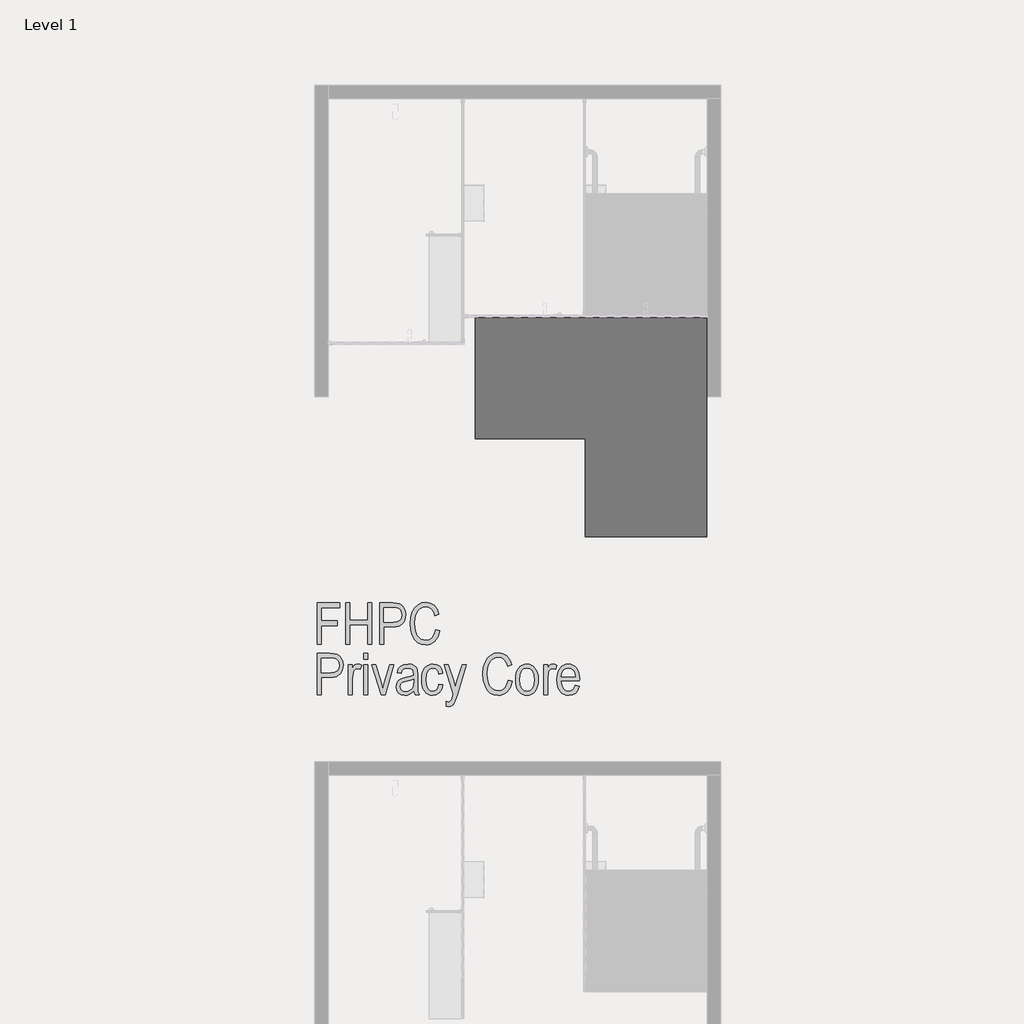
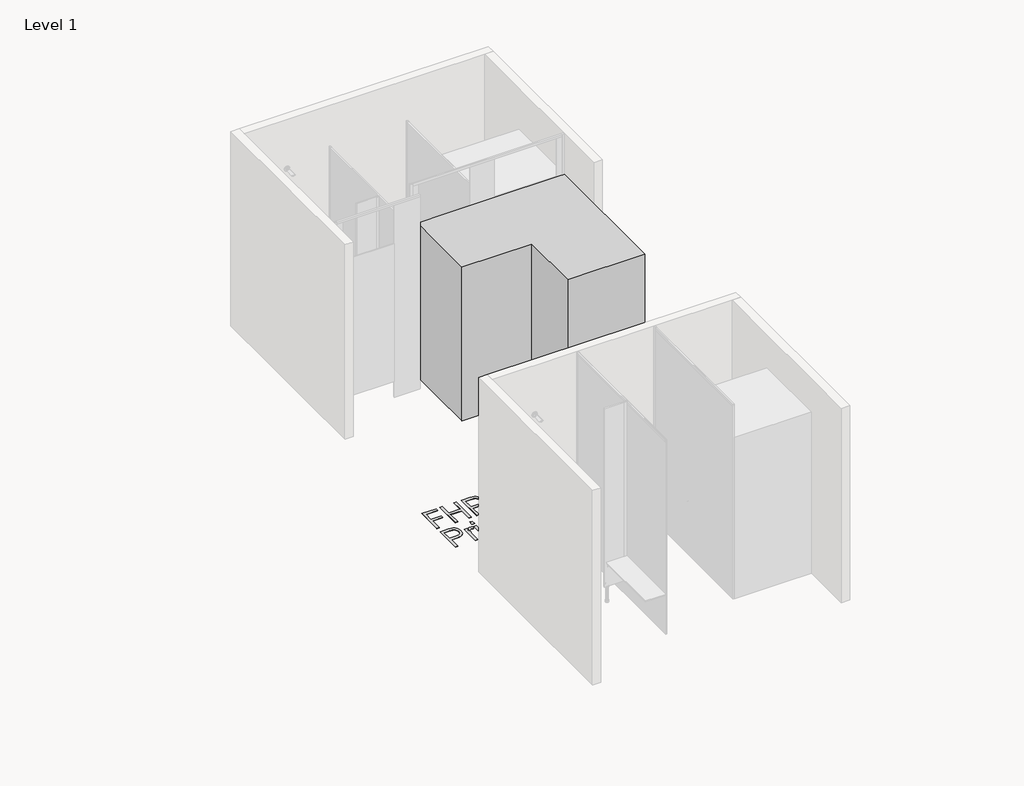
# One storey, part 8 of 21: 2 proxies.
"""IFC4 building model written with IfcOpenShell, lengths in millimetres."""

import ifcopenshell
import ifcopenshell.guid

model = None  # the IFC model being written
_history = None  # IfcOwnerHistory: only IFC2X3 demands one
_inside = {}  # id of a spatial element -> (the spatial element, [elements in it])
_under = {}  # id of a project, library or spatial element -> (it, [spatial elements below it])
_declared = {}  # id of a project -> (the project, [libraries it declares])
_typed = {}  # id of a type object -> (the type object, [elements of that type])
_made_of = {}  # id of a material, layer set ... -> (it, [elements and type objects made of it])


def new_model(schema):
    """Start an empty IFC model of exactly this schema.

    Asked for "IFC4X3", IfcOpenShell would pick the latest addendum, in which some entities
    have other attributes; the version numbers below select the first issue.
    IFC2X3 requires an IfcOwnerHistory on every rooted entity: one is made here for all.
    """
    global model, _history
    if schema == "IFC4X3":
        model = ifcopenshell.file(schema_version=(4, 3, 0, 0))
    else:
        model = ifcopenshell.file(schema=schema)
    _inside.clear()
    _under.clear()
    _declared.clear()
    _typed.clear()
    _made_of.clear()
    _history = None
    if model.schema == "IFC2X3":
        org = make("IfcOrganization", Name="unknown")
        user = make(
            "IfcPersonAndOrganization",
            ThePerson=make("IfcPerson", FamilyName="unknown"),
            TheOrganization=org,
        )
        app = make(
            "IfcApplication",
            ApplicationDeveloper=org,
            Version="unknown",
            ApplicationFullName="unknown",
            ApplicationIdentifier="unknown",
        )
        _history = make(
            "IfcOwnerHistory",
            OwningUser=user,
            OwningApplication=app,
            ChangeAction="ADDED",
            CreationDate=0,
        )
    return model


def make(cls, **values):
    """One entity of the class cls with the attributes given. An attribute that is None is left unset."""
    return model.create_entity(
        cls, **{name: value for name, value in values.items() if value is not None}
    )


def rooted(cls, **values):
    """An entity with a GlobalId (a new one), such as an element, a storey or a relation."""
    return make(cls, GlobalId=ifcopenshell.guid.new(), OwnerHistory=_history, **values)


def si_unit(unit_type, name, prefix=None):
    """IfcSIUnit, for example si_unit("LENGTHUNIT", "METRE", prefix="MILLI")."""
    return make("IfcSIUnit", UnitType=unit_type, Prefix=prefix, Name=name)


def assignment(units):
    """IfcUnitAssignment: the units of a project."""
    return None if units is None else make("IfcUnitAssignment", Units=units)


def point(xyz):
    """IfcCartesianPoint."""
    return None if xyz is None else make("IfcCartesianPoint", Coordinates=xyz)


def direction(xyz):
    """IfcDirection."""
    return None if xyz is None else make("IfcDirection", DirectionRatios=xyz)


def frame(location, z_axis=None, x_axis=None):
    """IfcAxis2Placement3D, a coordinate frame: its origin and axes. An axis left out is left unset."""
    return make(
        "IfcAxis2Placement3D",
        Location=point(location),
        Axis=direction(z_axis),
        RefDirection=direction(x_axis),
    )


def origin():
    """The frame at (0, 0, 0) with its axes left unset."""
    return frame((0.0, 0.0, 0.0))


def origin_with_axes():
    """The frame at (0, 0, 0) with the z axis (0, 0, 1) and the x axis (1, 0, 0) written out."""
    return frame((0.0, 0.0, 0.0), z_axis=(0.0, 0.0, 1.0), x_axis=(1.0, 0.0, 0.0))


def place(relative_to, where):
    """IfcLocalPlacement: puts the frame where relative to a parent placement (None: the world)."""
    return make(
        "IfcLocalPlacement", PlacementRelTo=relative_to, RelativePlacement=where
    )


def context(
    kind, dimensions, precision=None, world=None, true_north=None, identifier=None
):
    """IfcGeometricRepresentationContext, for example the 3D "Model" context."""
    return make(
        "IfcGeometricRepresentationContext",
        ContextIdentifier=identifier,
        ContextType=kind,
        CoordinateSpaceDimension=dimensions,
        Precision=precision,
        WorldCoordinateSystem=world,
        TrueNorth=true_north,
    )


def project(units=None, contexts=None):
    """IfcProject with its units and contexts."""
    return rooted(
        "IfcProject",
        Name="project",
        RepresentationContexts=contexts,
        UnitsInContext=assignment(units),
    )


def spatial(cls, under=None, at=None, **own):
    """A site, building, storey or space (cls), placed at a placement, below another one or the project."""
    s = rooted(cls, ObjectPlacement=at, **own)
    if under is not None:
        _under.setdefault(under.id(), (under, []))[1].append(s)
    return s


def polyline(points):
    """IfcPolyline through the points."""
    return make("IfcPolyline", Points=[point(p) for p in points])


def outline(outer, holes=None, kind="AREA"):
    """IfcArbitraryClosedProfileDef: a profile drawn as a closed curve; with holes, ...WithVoids."""
    if holes is None:
        return make("IfcArbitraryClosedProfileDef", ProfileType=kind, OuterCurve=outer)
    return make(
        "IfcArbitraryProfileDefWithVoids",
        ProfileType=kind,
        OuterCurve=outer,
        InnerCurves=holes,
    )


def extrude(swept, where, along, depth):
    """IfcExtrudedAreaSolid: the profile swept, set in the frame where, extruded along a direction by depth."""
    return make(
        "IfcExtrudedAreaSolid",
        SweptArea=swept,
        Position=where,
        ExtrudedDirection=direction(along),
        Depth=depth,
    )


def shape(context_of_items, identifier, shape_type, items):
    """IfcShapeRepresentation: the items that make up one representation, for example the "Body"."""
    return make(
        "IfcShapeRepresentation",
        ContextOfItems=context_of_items,
        RepresentationIdentifier=identifier,
        RepresentationType=shape_type,
        Items=items,
    )


def source(mapping_origin, context_of_items, identifier, shape_type, items):
    """IfcRepresentationMap: a shape defined once, which mapped items show again and again."""
    return make(
        "IfcRepresentationMap",
        MappingOrigin=mapping_origin,
        MappedRepresentation=shape(context_of_items, identifier, shape_type, items),
    )


def transform(
    local_origin,
    x_axis=None,
    y_axis=None,
    z_axis=None,
    scale=None,
    scale2=None,
    scale3=None,
    uniform=True,
):
    """IfcCartesianTransformationOperator3D, or its non-uniform kind. x_axis, y_axis, z_axis: its Axis1, 2, 3."""
    if uniform:
        return make(
            "IfcCartesianTransformationOperator3D",
            Axis1=direction(x_axis),
            Axis2=direction(y_axis),
            LocalOrigin=point(local_origin),
            Scale=scale,
            Axis3=direction(z_axis),
        )
    return make(
        "IfcCartesianTransformationOperator3DnonUniform",
        Axis1=direction(x_axis),
        Axis2=direction(y_axis),
        LocalOrigin=point(local_origin),
        Scale=scale,
        Axis3=direction(z_axis),
        Scale2=scale2,
        Scale3=scale3,
    )


def mapped(mapping_source, mapping_target):
    """IfcMappedItem: shows the shape of a source again, moved by a transform."""
    return make(
        "IfcMappedItem", MappingSource=mapping_source, MappingTarget=mapping_target
    )


def made_of(thing, what):
    """Note that an element or type object is made of a material, layer set ...; save() writes the relation."""
    if what is not None:
        _made_of.setdefault(what.id(), (what, []))[1].append(thing)
    return thing


def element(
    cls,
    number,
    at=None,
    inside=None,
    cuts=None,
    type_object=None,
    material=None,
    context=None,
    identifier="Body",
    shape_type=None,
    held_by="IfcProductDefinitionShape",
    body=None,
    shapes=None,
    **own,
):
    """One element of the class cls, such as IfcWall. Its Tag is "e" and its number.

    at: its placement. inside: the storey or other place that contains it. cuts: it is an
    opening in that element (IfcRelVoidsElement). A single representation is given by context,
    identifier, shape_type and body (its items); several are given by shapes. held_by: the class
    of the entity that holds the representations. save() writes the other relations.
    """
    e = rooted(cls, Tag="e%d" % number, ObjectPlacement=at, **own)
    if body is not None:
        shapes = [shape(context, identifier, shape_type, body)]
    if shapes is not None:
        e.Representation = make(held_by, Representations=shapes)
    if inside is not None:
        _inside.setdefault(inside.id(), (inside, []))[1].append(e)
    if cuts is not None:
        rooted(
            "IfcRelVoidsElement", RelatingBuildingElement=cuts, RelatedOpeningElement=e
        )
    if type_object is not None:
        _typed.setdefault(type_object.id(), (type_object, []))[1].append(e)
    return made_of(e, material)


def aggregate(whole, parts):
    """IfcRelAggregates: a whole, such as a stair, and the parts it consists of."""
    return rooted("IfcRelAggregates", RelatingObject=whole, RelatedObjects=parts)


def save(model, path):
    """Write the relations noted so far, then the file.

    IfcRelAggregates (storeys below a building ...), IfcRelContainedInSpatialStructure (elements
    in a storey), IfcRelDefinesByType, IfcRelAssociatesMaterial and IfcRelDeclares: one each for
    every whole, place, type object, material and project.
    """
    for whole, parts in _under.values():
        aggregate(whole, parts)
    for where, things in _inside.values():
        rooted(
            "IfcRelContainedInSpatialStructure",
            RelatedElements=things,
            RelatingStructure=where,
        )
    for kind, things in _typed.values():
        rooted("IfcRelDefinesByType", RelatedObjects=things, RelatingType=kind)
    for what, things in _made_of.values():
        rooted("IfcRelAssociatesMaterial", RelatedObjects=things, RelatingMaterial=what)
    for by, libraries in _declared.values():
        rooted("IfcRelDeclares", RelatingContext=by, RelatedDefinitions=libraries)
    model.write(path)


def standard_f88c7766(model_context):
    return source(origin(), model_context, "Body", "SweptSolid", [
        extrude(outline(polyline([(450.0, 812.5), (450.0, -812.5), (-450.0, -812.5), (-450.0, -87.5), (-1262.5, -87.5), (-1262.5, 812.5), (450.0, 812.5)])), origin_with_axes(), (0.0, 0.0, 1.0), 1900.0),
    ])


model = new_model("IFC4")

# Units and contexts
model_context = context("Model", 3, world=origin())
ifc_project = project(units=[si_unit("LENGTHUNIT", "METRE", prefix="MILLI")], contexts=[model_context])

# Site, building, storey
site = spatial("IfcSite", under=ifc_project)
building = spatial("IfcBuilding", under=site)
storey = spatial("IfcBuildingStorey", under=building, Name="Level 1", Elevation=0.0)

# Proxies
placement = place(None, origin())
element("IfcBuildingElementProxy", 1, Name="Arial Narrow-300mm", ObjectType="Arial Narrow-300mm", at=placement, inside=storey, context=model_context, shape_type="SweptSolid", body=[
    extrude(outline(polyline([(-11218.8829157, 6023.6753804), (-11218.8829157, 6328.8527498), (-11051.5275841, 6328.8527498), (-11051.5275841, 6294.3972403), (-11189.3496219, 6294.3972403), (-11189.3496219, 6195.9529276), (-11071.2164466, 6195.9529276), (-11071.2164466, 6161.4974182), (-11189.3496219, 6161.4974182), (-11189.3496219, 6023.6753804), (-11218.8829157, 6023.6753804)])), origin_with_axes(), (0.0, 0.0, 1.0), 5.0),
    extrude(outline(polyline([(-11007.2276434, 6023.6753804), (-11007.2276434, 6328.8527498), (-10977.6943496, 6328.8527498), (-10977.6943496, 6200.8751433), (-10844.7945274, 6200.8751433), (-10844.7945274, 6328.8527498), (-10815.2612336, 6328.8527498), (-10815.2612336, 6023.6753804), (-10844.7945274, 6023.6753804), (-10844.7945274, 6166.4196338), (-10977.6943496, 6166.4196338), (-10977.6943496, 6023.6753804), (-11007.2276434, 6023.6753804)])), origin_with_axes(), (0.0, 0.0, 1.0), 5.0),
    extrude(outline(polyline([(-10756.194646, 6023.6753804), (-10756.194646, 6328.8527498), (-10661.3650854, 6328.8527498), (-10632.2547945, 6327.4299218), (-10611.9891098, 6323.161438), (-10592.4156117, 6312.0960665), (-10577.2259619, 6294.4356951), (-10567.4776676, 6271.0647846), (-10564.2282362, 6242.8677954), (-10569.6407507, 6206.278044), (-10576.4063938, 6190.7663352), (-10585.8782941, 6177.1100709), (-10598.6717285, 6165.9725967), (-10615.4019742, 6158.0172579), (-10636.0690309, 6153.2440547), (-10660.6728988, 6151.6529869), (-10726.6613522, 6151.6529869), (-10726.6613522, 6023.6753804), (-10756.194646, 6023.6753804)]), holes=[polyline([(-10726.6613522, 6186.1084964), (-10657.0581467, 6186.1084964), (-10628.620815, 6189.5405881), (-10608.9896347, 6199.8368634), (-10597.5685562, 6217.0550044), (-10593.76153, 6241.2526934), (-10595.636202, 6257.9516945), (-10601.2602179, 6272.0549959), (-10609.5376157, 6282.8511837), (-10619.3724333, 6289.6288439), (-10634.273672, 6293.2051412), (-10657.7503333, 6294.3972403), (-10726.6613522, 6294.3972403), (-10726.6613522, 6186.1084964)])]), origin_with_axes(), (0.0, 0.0, 1.0), 5.0),
    extrude(outline(polyline([(-10342.7285327, 6131.9641244), (-10313.1952388, 6122.1196931), (-10328.019568, 6076.6564944), (-10338.4744693, 6058.8783552), (-10350.9578619, 6044.4025228), (-10365.1909483, 6033.1809287), (-10380.8949312, 6025.1655043), (-10398.0698106, 6020.3562496), (-10416.7155864, 6018.7531648), (-10448.2485303, 6022.9831938), (-10474.8592586, 6035.673281), (-10496.8169549, 6057.7175006), (-10514.3908029, 6090.0099271), (-10525.9272458, 6130.8008664), (-10529.7727268, 6178.3406248), (-10525.9368595, 6224.7651938), (-10514.4292577, 6263.4411186), (-10496.3747246, 6293.9838511), (-10472.8980633, 6316.0088434), (-10445.1817593, 6329.3334349), (-10414.4082978, 6333.7749654), (-10381.5294356, 6328.1509495), (-10353.6496986, 6311.2789018), (-10332.0765504, 6283.5049155), (-10318.1174545, 6245.175084), (-10347.6507483, 6235.3306527), (-10358.2354346, 6263.3257541), (-10373.0693775, 6283.3222552), (-10392.1525768, 6295.3201558), (-10415.4850325, 6299.319456), (-10439.1635816, 6296.1277068), (-10459.4388799, 6286.5524592), (-10476.1474947, 6270.2187788), (-10489.125993, 6246.7517312), (-10497.461073, 6216.132089), (-10500.239433, 6178.3406248), (-10498.8262187, 6149.0284462), (-10494.586576, 6123.6194307), (-10487.5205047, 6102.1135784), (-10477.6280049, 6084.5108893), (-10465.3945686, 6070.8161702), (-10451.3056877, 6061.034228), (-10435.3613622, 6055.1650627), (-10417.5615922, 6053.2086742), (-10391.7103464, 6058.092435), (-10369.6853542, 6072.7437175), (-10352.8902161, 6097.3163409), (-10342.7285327, 6131.9641244)])), origin_with_axes(), (0.0, 0.0, 1.0), 5.0),
    extrude(outline(polyline([(-11218.8829157, 5650.573168), (-11218.8829157, 5955.7505374), (-11124.0533551, 5955.7505374), (-11094.9430642, 5954.3277094), (-11074.6773795, 5950.0592255), (-11055.1038814, 5938.9938541), (-11039.9142316, 5921.3334827), (-11030.1659373, 5897.9625722), (-11026.9165059, 5869.765583), (-11032.3290204, 5833.1758316), (-11039.0946635, 5817.6641228), (-11048.5665638, 5804.0078585), (-11061.3599982, 5792.8703843), (-11078.0902439, 5784.9150455), (-11098.7573006, 5780.1418423), (-11123.3611685, 5778.5507745), (-11189.3496219, 5778.5507745), (-11189.3496219, 5650.573168), (-11218.8829157, 5650.573168)]), holes=[polyline([(-11189.3496219, 5813.006284), (-11119.7464164, 5813.006284), (-11091.3090847, 5816.4383757), (-11071.6779044, 5826.734651), (-11060.2568259, 5843.952792), (-11056.4497997, 5868.150481), (-11058.3244717, 5884.8494821), (-11063.9484876, 5898.9527835), (-11072.2258854, 5909.7489713), (-11082.060703, 5916.5266315), (-11096.9619417, 5920.1029288), (-11120.438603, 5921.2950279), (-11189.3496219, 5921.2950279), (-11189.3496219, 5813.006284)])]), origin_with_axes(), (0.0, 0.0, 1.0), 5.0),
    extrude(outline(polyline([(-10987.5387808, 5650.573168), (-10987.5387808, 5872.0728716), (-10958.005487, 5872.0728716), (-10958.005487, 5842.693397), (-10948.122601, 5859.9596065), (-10939.0857207, 5870.2270407), (-10929.933476, 5875.3030756), (-10919.7044966, 5876.9950872), (-10904.5533016, 5874.5339794), (-10889.0944681, 5867.1506559), (-10898.9388994, 5837.6173621), (-10921.857966, 5842.5395778), (-10931.5005095, 5840.7802702), (-10940.2778198, 5835.5023476), (-10947.3823459, 5827.0711306), (-10952.0065367, 5815.8519399), (-10958.005487, 5769.167801), (-10958.005487, 5650.573168), (-10987.5387808, 5650.573168)])), origin_with_axes(), (0.0, 0.0, 1.0), 5.0),
    extrude(outline(polyline([(-10874.3278212, 5911.4505967), (-10874.3278212, 5955.7505374), (-10844.7945274, 5955.7505374), (-10844.7945274, 5911.4505967), (-10874.3278212, 5911.4505967)])), origin_with_axes(), (0.0, 0.0, 1.0), 5.0),
    extrude(outline(polyline([(-10874.3278212, 5650.573168), (-10874.3278212, 5872.0728716), (-10844.7945274, 5872.0728716), (-10844.7945274, 5650.573168), (-10874.3278212, 5650.573168)])), origin_with_axes(), (0.0, 0.0, 1.0), 5.0),
    extrude(outline(polyline([(-10746.504034, 5650.573168), (-10816.1841491, 5872.0728716), (-10785.7279398, 5872.0728716), (-10745.9656666, 5739.4806879), (-10734.0446756, 5694.8731087), (-10722.8158712, 5737.0195801), (-10682.3614115, 5872.0728716), (-10651.9052022, 5872.0728716), (-10716.4323728, 5650.573168), (-10746.504034, 5650.573168)])), origin_with_axes(), (0.0, 0.0, 1.0), 5.0),
    extrude(outline(polyline([(-10505.1616486, 5678.1068117), (-10520.783915, 5663.9554418), (-10537.0406858, 5653.803372), (-10553.9319609, 5647.6890573), (-10571.4577404, 5645.6509524), (-10596.7610052, 5649.9386636), (-10616.3729581, 5662.8017975), (-10628.9476809, 5682.9136629), (-10633.1392551, 5708.9475691), (-10631.1299913, 5727.0790118), (-10625.1021999, 5743.0185304), (-10615.5942482, 5756.2373712), (-10603.1445036, 5766.2067806), (-10585.6283378, 5773.4651259), (-10560.9211226, 5778.5507745), (-10527.9845781, 5785.3572758), (-10505.1616486, 5793.3174214), (-10505.1616486, 5802.7773046), (-10507.2574357, 5821.889345), (-10513.5447971, 5834.3102485), (-10528.4652633, 5844.1739072), (-10549.6923182, 5847.4617934), (-10568.919723, 5845.3948474), (-10582.6096352, 5839.1940093), (-10592.0887458, 5827.282632), (-10598.6837457, 5808.0840683), (-10628.2170395, 5813.006284), (-10618.4302904, 5841.9146871), (-10601.9908593, 5861.7285278), (-10577.9758307, 5873.1784474), (-10545.4622891, 5876.9950872), (-10519.8706133, 5874.3128642), (-10500.4701618, 5866.2661953), (-10487.1744114, 5854.258681), (-10479.8968387, 5839.6939219), (-10475.6283548, 5793.394331), (-10475.6283548, 5743.3261689), (-10473.6287047, 5677.1454415), (-10465.7839235, 5650.573168), (-10495.3172173, 5650.573168), (-10501.5468965, 5663.2248004), (-10505.1616486, 5678.1068117)]), holes=[polyline([(-10505.1616486, 5763.7841276), (-10527.2539368, 5755.7470724), (-10557.9985571, 5749.0174807), (-10586.493571, 5741.288064), (-10599.1067486, 5728.9825249), (-10603.6059613, 5710.6395807), (-10601.0294891, 5696.1132763), (-10593.3000723, 5684.8364034), (-10581.0137606, 5677.5972855), (-10564.7666036, 5675.1842462), (-10548.2502628, 5677.3665566), (-10533.3105693, 5683.913488), (-10520.947348, 5694.1040125), (-10512.160424, 5707.2171026), (-10506.9113425, 5725.1274302), (-10505.1616486, 5749.7096673), (-10505.1616486, 5763.7841276)])]), origin_with_axes(), (0.0, 0.0, 1.0), 5.0),
    extrude(outline(polyline([(-10318.1174545, 5729.3286182), (-10288.5841607, 5724.4064025), (-10297.6691095, 5690.5757837), (-10314.6180668, 5665.8397274), (-10337.5852019, 5650.6981461), (-10364.7246838, 5645.6509524), (-10381.7024822, 5647.4799593), (-10397.1036335, 5652.9669799), (-10410.9281376, 5662.1120143), (-10423.1759944, 5674.9150625), (-10433.2030861, 5691.3040217), (-10440.3652944, 5711.2067891), (-10444.6626193, 5734.6233648), (-10446.095061, 5761.5537487), (-10444.6193577, 5788.5946901), (-10440.1922477, 5812.0353), (-10432.8137311, 5831.8755784), (-10422.4838079, 5848.1155252), (-10409.8369823, 5860.7503336), (-10395.5077589, 5869.7751967), (-10379.4961375, 5875.1901146), (-10361.8021182, 5876.9950872), (-10335.5086421, 5872.6881485), (-10313.6951514, 5859.7673325), (-10297.6306546, 5838.2326391), (-10288.5841607, 5808.0840683), (-10318.1174545, 5803.1618527), (-10324.4240433, 5822.5911453), (-10334.1146553, 5836.425263), (-10346.6316958, 5844.7026608), (-10361.4175701, 5847.4617934), (-10383.2118335, 5842.3569174), (-10400.9106597, 5827.0422895), (-10412.6489903, 5800.6142216), (-10416.5617672, 5762.1690256), (-10412.918174, 5722.5990265), (-10401.9873943, 5695.7191145), (-10385.3653029, 5680.3179633), (-10364.6477742, 5675.1842462), (-10348.1025923, 5678.4817461), (-10334.1531101, 5688.3742459), (-10323.81838, 5705.2078388), (-10318.1174545, 5729.3286182)])), origin_with_axes(), (0.0, 0.0, 1.0), 5.0),
    extrude(outline(polyline([(-10263.9730825, 5566.8955022), (-10263.9730825, 5601.3510117), (-10248.5911586, 5596.428796), (-10234.3628791, 5600.7357347), (-10225.1337248, 5614.1949181), (-10212.751276, 5654.0341009), (-10278.7397294, 5872.0728716), (-10248.1297009, 5872.0728716), (-10210.4439875, 5752.5553232), (-10197.4462618, 5704.7944496), (-10185.1407227, 5751.786227), (-10146.9166419, 5872.0728716), (-10116.3066134, 5872.0728716), (-10184.2947169, 5646.8815063), (-10205.2525882, 5589.2377466), (-10213.4146215, 5576.7687746), (-10222.5957073, 5568.356785), (-10232.9400511, 5563.5691612), (-10244.5918584, 5561.9732866), (-10263.9730825, 5566.8955022)])), origin_with_axes(), (0.0, 0.0, 1.0), 5.0),
    extrude(outline(polyline([(-9806.2070284, 5758.861912), (-9776.6737346, 5749.0174807), (-9791.4980637, 5703.554282), (-9801.9529651, 5685.7761428), (-9814.4363577, 5671.3003104), (-9828.6694441, 5660.0787163), (-9844.373427, 5652.0632919), (-9861.5483064, 5647.2540372), (-9880.1940822, 5645.6509524), (-9911.7270261, 5649.8809814), (-9938.3377544, 5662.5710686), (-9960.2954507, 5684.6152882), (-9977.8692987, 5716.9077147), (-9989.4057416, 5757.698654), (-9993.2512226, 5805.2384124), (-9989.4153553, 5851.6629814), (-9977.9077535, 5890.3389062), (-9959.8532204, 5920.8816387), (-9936.3765591, 5942.906631), (-9908.660255, 5956.2312225), (-9877.8867936, 5960.672753), (-9845.0079314, 5955.0487371), (-9817.1281944, 5938.1766894), (-9795.5550462, 5910.4027031), (-9781.5959503, 5872.0728716), (-9811.1292441, 5862.2284403), (-9821.7139304, 5890.2235417), (-9836.5478733, 5910.2200428), (-9855.6310725, 5922.2179434), (-9878.9635283, 5926.2172436), (-9902.6420773, 5923.0254944), (-9922.9173757, 5913.4502468), (-9939.6259905, 5897.1165664), (-9952.6044888, 5873.6495188), (-9960.9395688, 5843.0298766), (-9963.7179288, 5805.2384124), (-9962.3047145, 5775.9262338), (-9958.0650717, 5750.5172183), (-9950.9990005, 5729.011366), (-9941.1065007, 5711.4086769), (-9928.8730644, 5697.7139578), (-9914.7841835, 5687.9320156), (-9898.839858, 5682.0628503), (-9881.040088, 5680.1064618), (-9855.1888422, 5684.9902226), (-9833.16385, 5699.6415051), (-9816.3687119, 5724.2141285), (-9806.2070284, 5758.861912)])), origin_with_axes(), (0.0, 0.0, 1.0), 5.0),
    extrude(outline(polyline([(-9752.0626565, 5761.3230198), (-9750.5821463, 5788.2149489), (-9746.1406158, 5811.5930697), (-9738.7380649, 5831.4573823), (-9728.3744937, 5847.8078867), (-9715.7420887, 5860.5772869), (-9701.5330366, 5869.6982871), (-9685.7473372, 5875.1708872), (-9668.3849907, 5876.9950872), (-9651.2726004, 5875.1708872), (-9635.6214928, 5869.6982871), (-9621.4316681, 5860.5772869), (-9608.7031261, 5847.8078867), (-9598.204963, 5831.6015879), (-9590.7062752, 5812.1698919), (-9586.2070624, 5789.5127987), (-9584.7073249, 5763.6303084), (-9586.1806248, 5735.7289405), (-9590.6005244, 5711.629792), (-9597.9670239, 5691.3328628), (-9608.2801232, 5674.8381529), (-9620.8764768, 5662.0687527), (-9635.0927392, 5652.9477525), (-9650.9289105, 5647.4751524), (-9668.3849907, 5645.6509524), (-9685.5911146, 5647.4799593), (-9701.292694, 5652.9669799), (-9715.4897291, 5662.1120143), (-9728.1822197, 5674.9150625), (-9738.6299108, 5691.2896011), (-9746.0925473, 5711.1491069), (-9750.5701292, 5734.4935798), (-9752.0626565, 5761.3230198)]), holes=[polyline([(-9722.5293626, 5761.3999294), (-9718.578131, 5723.3681227), (-9706.7244359, 5696.4882107), (-9689.0256097, 5680.5102373), (-9667.5389848, 5675.1842462), (-9647.1771631, 5680.5583058), (-9629.930181, 5696.6804848), (-9618.1630093, 5723.6084652), (-9614.2406187, 5761.3999294), (-9618.1918504, 5799.3163717), (-9630.0455454, 5826.1578289), (-9647.7443716, 5842.1358023), (-9669.2309965, 5847.4617934), (-9689.7370237, 5842.1069612), (-9706.9551647, 5826.0424644), (-9718.6358132, 5799.1721662), (-9722.5293626, 5761.3999294)])]), origin_with_axes(), (0.0, 0.0, 1.0), 5.0),
    extrude(outline(polyline([(-9545.3295998, 5650.573168), (-9545.3295998, 5872.0728716), (-9515.796306, 5872.0728716), (-9515.796306, 5842.693397), (-9505.9134199, 5859.9596065), (-9496.8765396, 5870.2270407), (-9487.7242949, 5875.3030756), (-9477.4953156, 5876.9950872), (-9462.3441206, 5874.5339794), (-9446.8852871, 5867.1506559), (-9456.7297184, 5837.6173621), (-9479.6487849, 5842.5395778), (-9489.2913284, 5840.7802702), (-9498.0686387, 5835.5023476), (-9505.1731648, 5827.0711306), (-9509.7973557, 5815.8519399), (-9515.796306, 5769.167801), (-9515.796306, 5650.573168), (-9545.3295998, 5650.573168)])), origin_with_axes(), (0.0, 0.0, 1.0), 5.0),
    extrude(outline(polyline([(-9309.0632493, 5719.4841869), (-9279.5299555, 5714.5619713), (-9290.7395325, 5684.6056745), (-9308.3710627, 5663.0325263), (-9331.7131322, 5649.9963459), (-9360.0543269, 5645.6509524), (-9378.5462835, 5647.4799593), (-9395.1827955, 5652.9669799), (-9409.963863, 5662.1120143), (-9422.8894859, 5674.9150625), (-9433.3876489, 5691.1742367), (-9440.8863368, 5710.6876492), (-9445.3855495, 5733.4552999), (-9446.8852871, 5759.4771889), (-9445.3783392, 5786.4268002), (-9440.8574957, 5809.9779677), (-9433.3227564, 5830.1306914), (-9422.7741214, 5846.8849713), (-9409.9181979, 5860.058147), (-9395.4615929, 5869.4675582), (-9379.4043064, 5875.113205), (-9361.7463385, 5876.9950872), (-9344.8286257, 5875.1780975), (-9329.3770025, 5869.7271282), (-9315.3914689, 5860.6421794), (-9302.8720249, 5847.9232511), (-9292.5589257, 5831.7626174), (-9285.1924262, 5812.3525522), (-9280.7725265, 5789.6930556), (-9279.2992266, 5763.7841276), (-9279.5299555, 5753.9396963), (-9417.3519933, 5753.9396963), (-9411.804887, 5719.6764609), (-9399.1628683, 5695.026928), (-9381.1948585, 5680.1449166), (-9359.6697788, 5675.1842462), (-9342.865027, 5677.9529925), (-9328.8290215, 5686.2592314), (-9317.5617622, 5700.1029628), (-9309.0632493, 5719.4841869)]), holes=[polyline([(-9415.3523432, 5783.4729902), (-9309.0632493, 5783.4729902), (-9313.370188, 5808.7378001), (-9321.9840653, 5826.6961962), (-9339.634823, 5842.2703941), (-9361.5156097, 5847.4617934), (-9381.6082477, 5843.1356273), (-9398.5091365, 5830.1571291), (-9410.3724453, 5809.8337622), (-9415.3523432, 5783.4729902)])]), origin_with_axes(), (0.0, 0.0, 1.0), 5.0),
])
standard_shape = standard_f88c7766(model_context)
element("IfcBuildingElementProxy", 2, Name="Clearance-Door-Circulation-AS1428.1-2021-Duracube : Standard", ObjectType="Clearance-Door-Circulation-AS1428.1-2021-Duracube : Standard", at=placement, inside=storey, context=model_context, shape_type="MappedRepresentation", body=[
    mapped(standard_shape, transform((-8787.916652, 7628.9657683, 0.0), x_axis=(1.0, 0.0, 0.0), y_axis=(0.0, 1.0, 0.0), z_axis=(0.0, 0.0, 1.0))),
])

save(model, "model.ifc")
